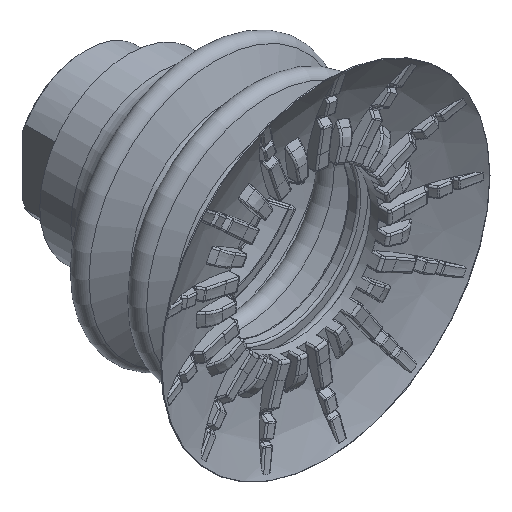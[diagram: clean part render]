
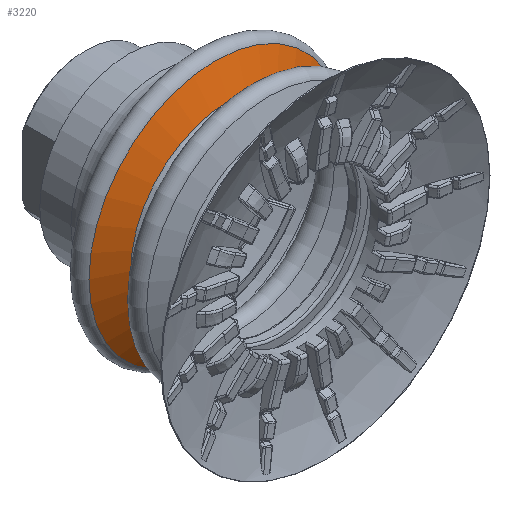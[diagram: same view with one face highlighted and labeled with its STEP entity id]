
A CAD part, isometric view. The second image highlights one B-rep face of the part: STEP entity #3220.
In plain terms, the highlighted conical face has half-angle 64.453 degrees and reference radius 19.4 mm.
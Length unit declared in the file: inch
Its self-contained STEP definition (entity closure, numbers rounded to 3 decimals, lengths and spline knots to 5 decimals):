
#458 = EDGE_LOOP ( 'NONE', ( #66287 ) ) ;
#652 = VERTEX_POINT ( 'NONE', #66571 ) ;
#1516 = DIRECTION ( 'NONE',  ( 1., 0., 0. ) ) ;
#3220 = ADVANCED_FACE ( 'NONE', ( #64210, #14573 ), #43557, .T. ) ;
#4094 = DIRECTION ( 'NONE',  ( 1., 0., 0. ) ) ;
#12348 = AXIS2_PLACEMENT_3D ( 'NONE', #30200, #18968, #42446 ) ;
#14573 = FACE_OUTER_BOUND ( 'NONE', #458, .T. ) ;
#18968 = DIRECTION ( 'NONE',  ( 0., 0., 1. ) ) ;
#22485 = CIRCLE ( 'NONE', #69909, 0.76376 ) ;
#25829 = CIRCLE ( 'NONE', #41947, 0.9833 ) ;
#27495 = VERTEX_POINT ( 'NONE', #44455 ) ;
#30138 = CARTESIAN_POINT ( 'NONE',  ( 0., 0., -0.78208 ) ) ;
#30200 = CARTESIAN_POINT ( 'NONE',  ( 0., 0., -0.78208 ) ) ;
#32382 = DIRECTION ( 'NONE',  ( 0., 0., 1. ) ) ;
#41947 = AXIS2_PLACEMENT_3D ( 'NONE', #63894, #32382, #4094 ) ;
#42446 = DIRECTION ( 'NONE',  ( 1., 0., 0. ) ) ;
#43557 = CONICAL_SURFACE ( 'NONE', #12348, 0.76376, 1.125 ) ;
#44455 = CARTESIAN_POINT ( 'NONE',  ( 0.9833, 0., -0.67714 ) ) ;
#46063 = DIRECTION ( 'NONE',  ( 0., 0., 1. ) ) ;
#48471 = ORIENTED_EDGE ( 'NONE', *, *, #60484, .T. ) ;
#58098 = EDGE_CURVE ( 'NONE', #27495, #27495, #25829, .T. ) ;
#60484 = EDGE_CURVE ( 'NONE', #652, #652, #22485, .T. ) ;
#63894 = CARTESIAN_POINT ( 'NONE',  ( 0., 0., -0.67714 ) ) ;
#64210 = FACE_BOUND ( 'NONE', #67709, .T. ) ;
#66287 = ORIENTED_EDGE ( 'NONE', *, *, #58098, .F. ) ;
#66571 = CARTESIAN_POINT ( 'NONE',  ( 0.76376, 0., -0.78208 ) ) ;
#67709 = EDGE_LOOP ( 'NONE', ( #48471 ) ) ;
#69909 = AXIS2_PLACEMENT_3D ( 'NONE', #30138, #46063, #1516 ) ;
